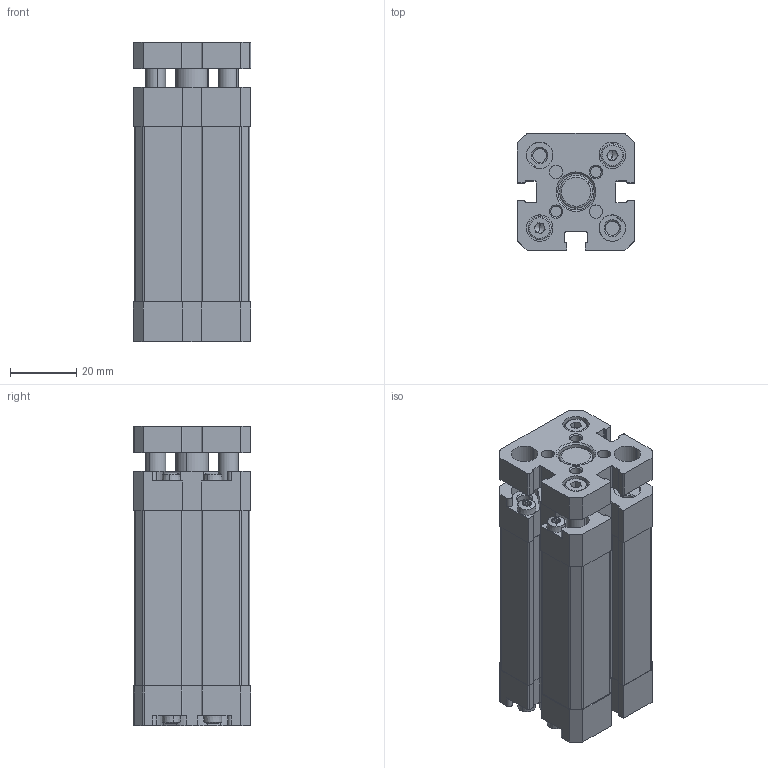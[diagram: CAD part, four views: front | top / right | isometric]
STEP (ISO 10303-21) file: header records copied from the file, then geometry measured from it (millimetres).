
FILE_DESCRIPTION (( 'STEP AP214' ), '1' );
FILE_NAME ('WPCG-020-0040 (3D).STEP', '2023-05-31T11:22:23', ( '' ), ( '' ), 'SwSTEP 2.0', 'SolidWorks 2015', '' );
FILE_SCHEMA (( 'AUTOMOTIVE_DESIGN' ));
Length unit declared in the file: inch
Products named in the file (3): WPCG-020-0040 (3D); Group1^Assem1; Group2^Assem1
Assembly tree (2 placements, depth 2):
  WPCG-020-0040 (3D)
    Group1^Assem1
    Group2^Assem1
Bounding box: 35.5 x 35.5 x 90.5 mm (x, y, z)
Volume: 82318.1 mm3; surface area: 39993.7 mm2
Topology: 18 solids, 18 shells, 880 faces, 2262 edges, 1430 vertices
Faces by surface type: cylinder 354, plane 314, cone 156, torus 28, bspline 28
Entity records: 30219 total; most frequent: CARTESIAN_POINT 7585, ORIENTED_EDGE 4484, DIRECTION 4308, EDGE_CURVE 2242, AXIS2_PLACEMENT_3D 1545, VERTEX_POINT 1430, VECTOR 1218, LINE 1218
